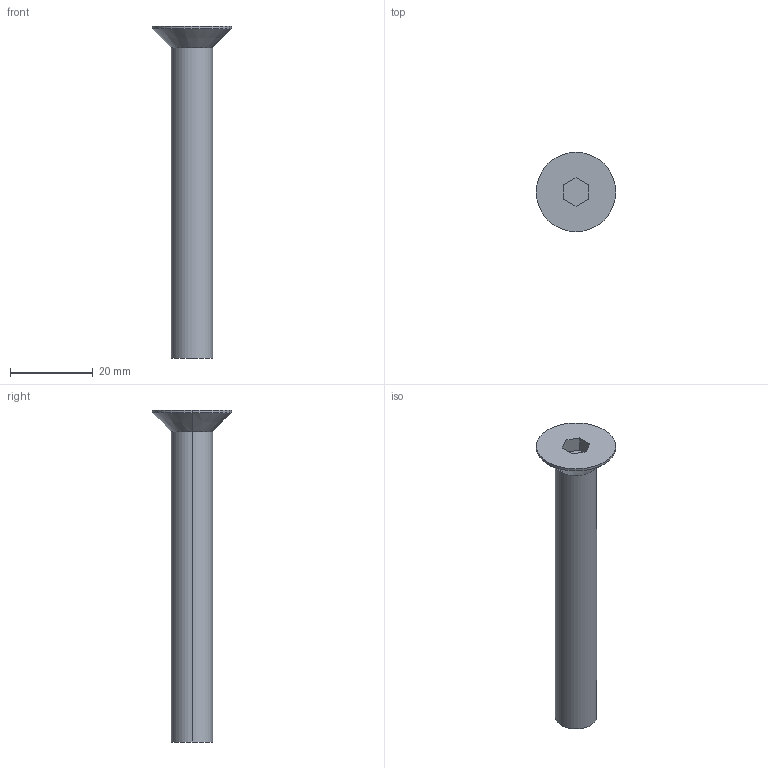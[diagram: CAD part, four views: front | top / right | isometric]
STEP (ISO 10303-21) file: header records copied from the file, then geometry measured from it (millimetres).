
FILE_DESCRIPTION (( 'STEP AP214' ), '1' );
FILE_NAME ('COUNTERSHUNK_HEAD_BOLT_M10(L=075).STEP', '2021-09-18T10:23:48', ( '' ), ( '' ), 'SwSTEP 2.0', 'SolidWorks 2018', '' );
FILE_SCHEMA (( 'AUTOMOTIVE_DESIGN' ));
Length unit declared in the file: millimetre
Products named in the file (1): COUNTERSHUNK_HEAD_BOLT_M10(L=075)
Bounding box: 19.22 x 19.22 x 80.22 mm (x, y, z)
Volume: 6753.7 mm3; surface area: 3135.8 mm2
Topology: 1 solids, 1 shells, 15 faces, 32 edges, 20 vertices
Faces by surface type: plane 9, cylinder 4, cone 2
Entity records: 436 total; most frequent: DIRECTION 72, CARTESIAN_POINT 68, ORIENTED_EDGE 64, EDGE_CURVE 32, VECTOR 24, AXIS2_PLACEMENT_3D 24, LINE 24, VERTEX_POINT 20
